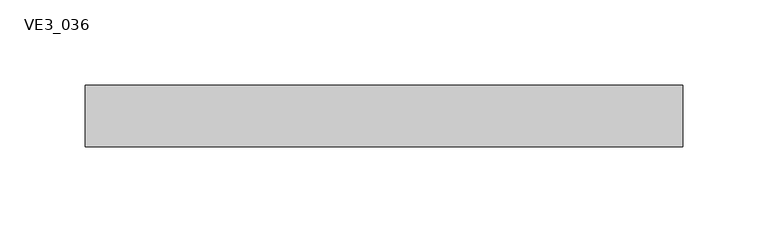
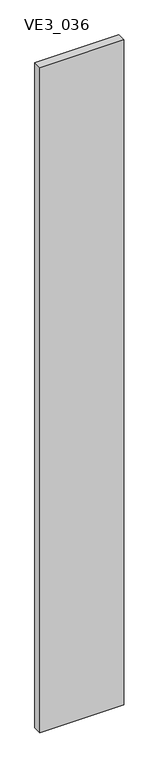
"""IFC4 building model written with IfcOpenShell, lengths in millimetres: plate geometry, TRP_CP_ARC_PF_RE_SE : VE3_036."""

from ifc_helpers import new_model, si_unit, frame, origin, place, context, project, spatial, polyline, outline, extrude, source, transform, mapped, element, save


def ve3_036_760cb13e(model_context):
    return source(origin(), model_context, "Body", "SweptSolid", [
        extrude(outline(polyline([(175.0, 18.0), (175.0, -18.0), (-175.0, -18.0), (-175.0, 18.0), (175.0, 18.0)])), frame((0.0, 0.0, -3.1739529), z_axis=(0.0, 0.0, 1.0), x_axis=(1.0, 0.0, 0.0)), (0.0, 0.0, 1.0), 2933.1739529),
    ])


if __name__ == "__main__":
    model = new_model("IFC4")
    model_context = context("Model", 3, world=origin())
    ifc_project = project(units=[si_unit("LENGTHUNIT", "METRE", prefix="MILLI")], contexts=[model_context])
    site = spatial("IfcSite", under=ifc_project)
    building = spatial("IfcBuilding", under=site)
    placement = place(None, origin())
    ve3_036_shape = ve3_036_760cb13e(model_context)
    element("IfcPlate", 1, ObjectType="TRP_CP_ARC_PF_RE_SE : VE3_036", at=placement, inside=building, context=model_context, shape_type="MappedRepresentation", body=[
        mapped(ve3_036_shape, transform((0.0, 0.0, 0.0), x_axis=(1.0, 0.0, 0.0), y_axis=(0.0, 1.0, 0.0), z_axis=(0.0, 0.0, 1.0))),
    ])
    save(model, "model.ifc")
